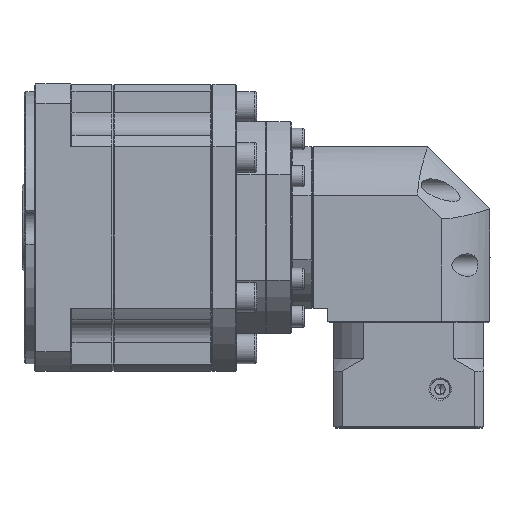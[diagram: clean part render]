
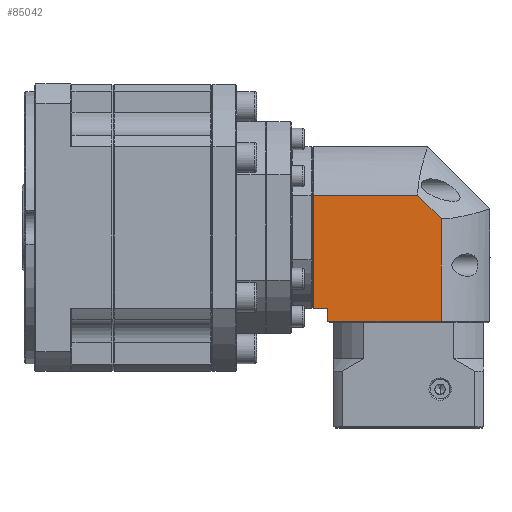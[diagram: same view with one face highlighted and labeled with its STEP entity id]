
A CAD part, top view. The second image highlights one B-rep face of the part: STEP entity #85042.
In plain terms, the highlighted planar face has unit normal (0, 0, 1).
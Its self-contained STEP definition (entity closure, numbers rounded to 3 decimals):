
#4199 = EDGE_CURVE ( 'NONE', #41374, #4376, #80936, .T. ) ;
#4246 = DIRECTION ( 'NONE',  ( -1., 0., 0. ) ) ;
#4376 = VERTEX_POINT ( 'NONE', #104228 ) ;
#7064 = DIRECTION ( 'NONE',  ( -0.707, 0.707, 0. ) ) ;
#11742 = EDGE_CURVE ( 'NONE', #4376, #170275, #99690, .T. ) ;
#12436 = VECTOR ( 'NONE', #101359, 1000. ) ;
#16204 = DIRECTION ( 'NONE',  ( 0., -1., 0. ) ) ;
#20359 = LINE ( 'NONE', #83696, #24633 ) ;
#21762 = LINE ( 'NONE', #38280, #89578 ) ;
#24633 = VECTOR ( 'NONE', #16204, 1000. ) ;
#27925 = DIRECTION ( 'NONE',  ( 1., 0., 0. ) ) ;
#34194 = LINE ( 'NONE', #155779, #104401 ) ;
#34974 = VERTEX_POINT ( 'NONE', #156308 ) ;
#38280 = CARTESIAN_POINT ( 'NONE',  ( -20.268, -57.365, -110.799 ) ) ;
#39563 = ORIENTED_EDGE ( 'NONE', *, *, #11742, .T. ) ;
#41374 = VERTEX_POINT ( 'NONE', #150107 ) ;
#42197 = DIRECTION ( 'NONE',  ( 0., 0., -1. ) ) ;
#45012 = CARTESIAN_POINT ( 'NONE',  ( -15.968, -52.365, -110.799 ) ) ;
#45046 = EDGE_CURVE ( 'NONE', #170275, #81255, #88665, .T. ) ;
#49710 = ORIENTED_EDGE ( 'NONE', *, *, #145248, .T. ) ;
#51939 = DIRECTION ( 'NONE',  ( 1., 0., 0. ) ) ;
#53144 = DIRECTION ( 'NONE',  ( 0., -1., 0. ) ) ;
#63640 = VECTOR ( 'NONE', #53144, 1000. ) ;
#65713 = CARTESIAN_POINT ( 'NONE',  ( -10.268, -52.365, -110.799 ) ) ;
#67724 = EDGE_CURVE ( 'NONE', #117893, #101899, #120538, .T. ) ;
#71673 = CARTESIAN_POINT ( 'NONE',  ( 54.732, -6.874, -110.799 ) ) ;
#80936 = LINE ( 'NONE', #71673, #148871 ) ;
#81255 = VERTEX_POINT ( 'NONE', #65713 ) ;
#83696 = CARTESIAN_POINT ( 'NONE',  ( -10.268, 12.635, -110.799 ) ) ;
#84424 = CARTESIAN_POINT ( 'NONE',  ( 35.222, -57.365, -110.799 ) ) ;
#85042 = ADVANCED_FACE ( 'NONE', ( #86139 ), #150122, .F. ) ;
#86139 = FACE_OUTER_BOUND ( 'NONE', #99362, .T. ) ;
#88665 = LINE ( 'NONE', #122705, #124749 ) ;
#89578 = VECTOR ( 'NONE', #51939, 1000. ) ;
#96441 = CARTESIAN_POINT ( 'NONE',  ( 35.222, -16.372, -110.799 ) ) ;
#98898 = ORIENTED_EDGE ( 'NONE', *, *, #107076, .T. ) ;
#99362 = EDGE_LOOP ( 'NONE', ( #114368, #49710, #156156, #39563, #100179, #98898, #138248 ) ) ;
#99690 = LINE ( 'NONE', #147956, #63640 ) ;
#100179 = ORIENTED_EDGE ( 'NONE', *, *, #45046, .T. ) ;
#101359 = DIRECTION ( 'NONE',  ( 0., 1., 0. ) ) ;
#101899 = VERTEX_POINT ( 'NONE', #96441 ) ;
#104228 = CARTESIAN_POINT ( 'NONE',  ( -15.968, -6.874, -110.799 ) ) ;
#104401 = VECTOR ( 'NONE', #7064, 1000. ) ;
#107076 = EDGE_CURVE ( 'NONE', #81255, #34974, #20359, .T. ) ;
#114368 = ORIENTED_EDGE ( 'NONE', *, *, #67724, .T. ) ;
#117893 = VERTEX_POINT ( 'NONE', #84424 ) ;
#120538 = LINE ( 'NONE', #169447, #12436 ) ;
#122705 = CARTESIAN_POINT ( 'NONE',  ( -20.268, -52.365, -110.799 ) ) ;
#123425 = CARTESIAN_POINT ( 'NONE',  ( -20.268, 12.635, -110.799 ) ) ;
#124749 = VECTOR ( 'NONE', #27925, 1000. ) ;
#137025 = DIRECTION ( 'NONE',  ( -1., 0., 0. ) ) ;
#138248 = ORIENTED_EDGE ( 'NONE', *, *, #153366, .T. ) ;
#145248 = EDGE_CURVE ( 'NONE', #101899, #41374, #34194, .T. ) ;
#147956 = CARTESIAN_POINT ( 'NONE',  ( -15.968, -52.365, -110.799 ) ) ;
#148871 = VECTOR ( 'NONE', #4246, 1000. ) ;
#150107 = CARTESIAN_POINT ( 'NONE',  ( 25.725, -6.874, -110.799 ) ) ;
#150122 = PLANE ( 'NONE',  #163300 ) ;
#153366 = EDGE_CURVE ( 'NONE', #34974, #117893, #21762, .T. ) ;
#155779 = CARTESIAN_POINT ( 'NONE',  ( -335.58, 354.43, -110.799 ) ) ;
#156156 = ORIENTED_EDGE ( 'NONE', *, *, #4199, .T. ) ;
#156308 = CARTESIAN_POINT ( 'NONE',  ( -10.268, -57.365, -110.799 ) ) ;
#163300 = AXIS2_PLACEMENT_3D ( 'NONE', #123425, #42197, #137025 ) ;
#169447 = CARTESIAN_POINT ( 'NONE',  ( 35.222, 12.635, -110.799 ) ) ;
#170275 = VERTEX_POINT ( 'NONE', #45012 ) ;
